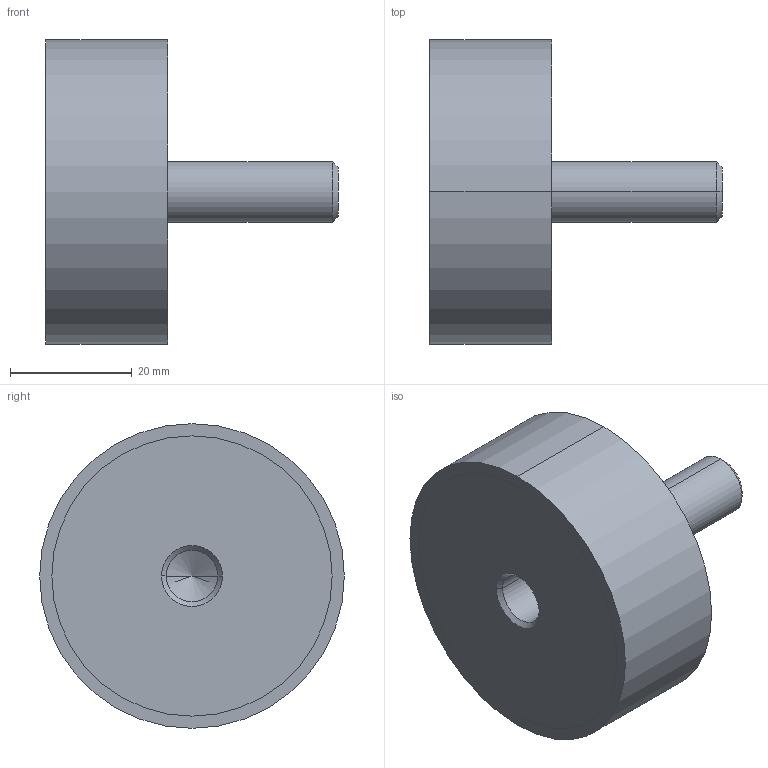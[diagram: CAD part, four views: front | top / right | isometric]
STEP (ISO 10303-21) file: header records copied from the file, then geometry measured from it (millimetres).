
FILE_DESCRIPTION (( 'STEP AP214' ), '1' );
FILE_NAME ('351-50-20-M10-ES-40.step', '2025-07-23T09:58:50', ( '' ), ( '' ), 'SwSTEP 2.0', 'SolidWorks 2022', '' );
FILE_SCHEMA (( 'AUTOMOTIVE_DESIGN' ));
Length unit declared in the file: millimetre
Products named in the file (1): 351-50-20-M10-ES-40
Bounding box: 48 x 50 x 50 mm (x, y, z)
Volume: 40736.1 mm3; surface area: 8228.8 mm2
Topology: 1 solids, 1 shells, 24 faces, 48 edges, 29 vertices
Faces by surface type: cylinder 12, cone 6, plane 6
Entity records: 740 total; most frequent: DIRECTION 124, CARTESIAN_POINT 100, ORIENTED_EDGE 92, AXIS2_PLACEMENT_3D 53, EDGE_CURVE 46, VERTEX_POINT 29, EDGE_LOOP 29, CIRCLE 28
